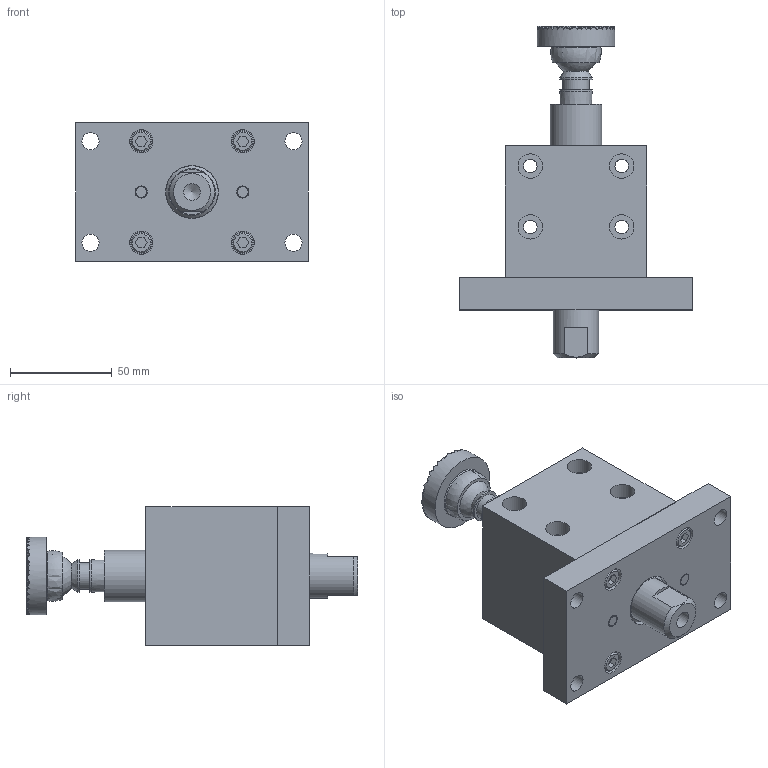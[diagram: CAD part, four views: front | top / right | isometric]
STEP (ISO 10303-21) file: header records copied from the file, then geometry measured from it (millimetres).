
FILE_DESCRIPTION(/* description */ ('PASS THRU GROUND UNIT'),/* implementation_level */ '2;1');
FILE_NAME(/* name */ 'C:\Vault Workspace\CAD\Welker\Cylinders\GBS\GBSC.stp',/* time_stamp */ '2021-06-24T14:08:30-04:00',/* author */ ('KPL'),/* organization */ (''),/* preprocessor_version */ 'ST-DEVELOPER v18.1',/* originating_system */ 'Autodesk Inventor 2020',/* authorisation */ '');
FILE_SCHEMA (('AUTOMOTIVE_DESIGN { 1 0 10303 214 3 1 1 }'));
Products named in the file (11): GBSL01; AN-09U2145; AN-07U2145; 6mmX25 ; M3X0.5-10 SHCS; M6X1-20 SHCS; NL6; GB3E25; GBSE01; GBSE02; GBSE03
Assembly tree (17 placements, depth 2):
  GBSL01
    AN-09U2145
    AN-07U2145
    6mmX25   x2
    M3X0.5-10 SHCS
    M6X1-20 SHCS  x4
    NL6  x4
    GB3E25
    GBSE01
    GBSE02
    GBSE03
Bounding box: 114.3 x 163.5 x 68 mm (x, y, z)
Volume: 416760.9 mm3; surface area: 91738 mm2
Topology: 17 solids, 17 shells, 716 faces, 1333 edges, 684 vertices
Faces by surface type: plane 612, cylinder 70, cone 30, torus 2, sphere 2
Full cylindrical faces by diameter (mm): 3 x1, 4.917 x4, 5.5 x1, 6 x10, 6.5 x8, 6.647 x4, 8 x2, 8.376 x1, 8.5 x4, 10 x4, 10.8 x4, 11.5 x4, 12 x4, 13 x1, 15.875 x3, 22.225 x1, 22.352 x1, 25.4 x2, 25.984 x1, 26.162 x1, 28.575 x1, 29.134 x1, 29.159 x1, 29.185 x1, 32.258 x1, 32.309 x1, 36.5 x2, 38.1 x1
Entity records: 16010 total; most frequent: DIRECTION 2916, CARTESIAN_POINT 2510, ORIENTED_EDGE 2420, EDGE_CURVE 1210, AXIS2_PLACEMENT_3D 1023, LINE 870, VECTOR 870, EDGE_LOOP 733
